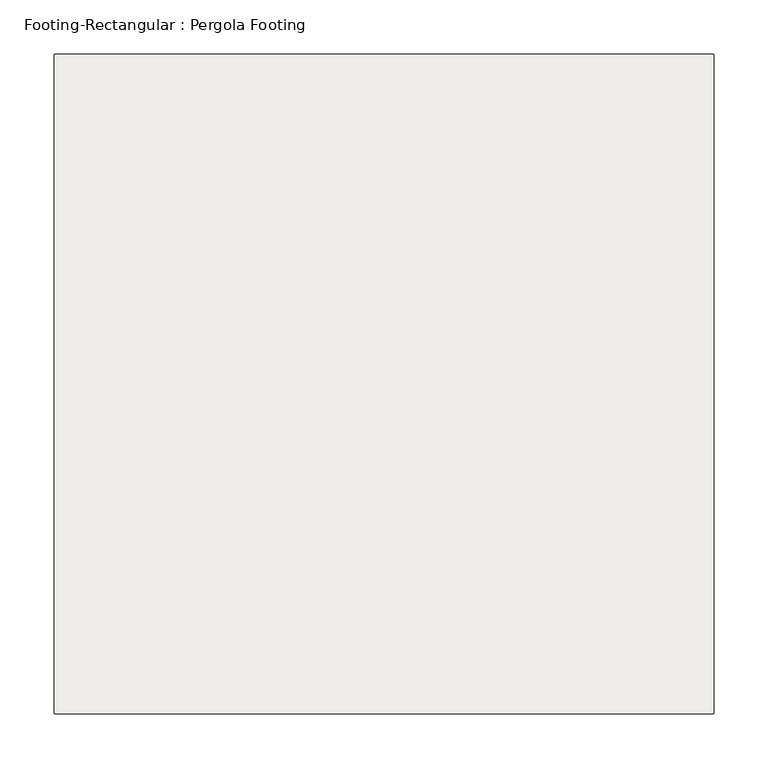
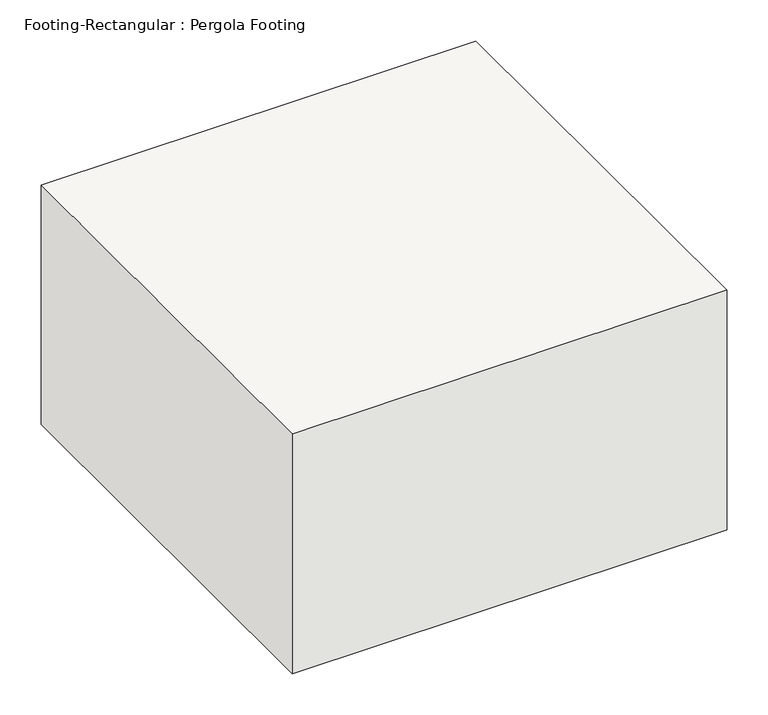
"""IFC4 building model written with IfcOpenShell, lengths in millimetres: slab geometry, Footing-Rectangular : Pergola Footing."""

from ifc_helpers import new_model, si_unit, frame, origin, place, context, project, spatial, polyline, outline, extrude, source, transform, mapped, element, save


def footing_rectangular_pergola_footing_7bc68983(model_context):
    return source(origin(), model_context, "Body", "SweptSolid", [
        extrude(outline(polyline([(304.8, 304.8), (304.8, -304.8), (-304.8, -304.8), (-304.8, 304.8), (304.8, 304.8)])), frame((0.0, 0.0, -355.6), z_axis=(0.0, 0.0, 1.0), x_axis=(1.0, 0.0, 0.0)), (0.0, 0.0, 1.0), 355.6),
    ])


if __name__ == "__main__":
    model = new_model("IFC4")
    model_context = context("Model", 3, world=origin())
    ifc_project = project(units=[si_unit("LENGTHUNIT", "METRE", prefix="MILLI")], contexts=[model_context])
    site = spatial("IfcSite", under=ifc_project)
    building = spatial("IfcBuilding", under=site)
    placement = place(None, origin())
    footing_rectangular_pergola_footing_shape = footing_rectangular_pergola_footing_7bc68983(model_context)
    element("IfcSlab", 1, ObjectType="Footing-Rectangular : Pergola Footing", at=placement, inside=building, context=model_context, shape_type="MappedRepresentation", body=[
        mapped(footing_rectangular_pergola_footing_shape, transform((0.0, 0.0, 0.0), x_axis=(1.0, 0.0, 0.0), y_axis=(0.0, 1.0, 0.0), z_axis=(0.0, 0.0, 1.0))),
    ])
    save(model, "model.ifc")
